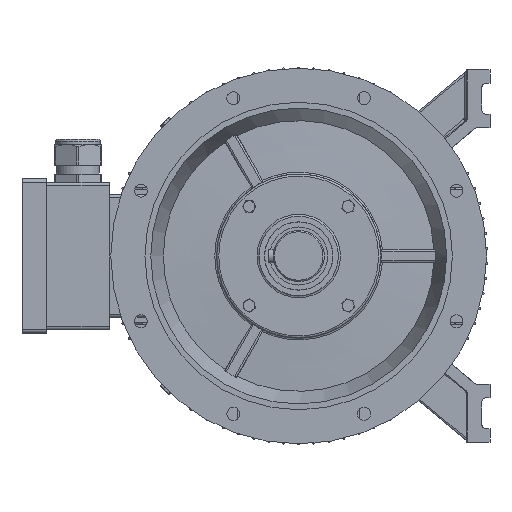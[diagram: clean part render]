
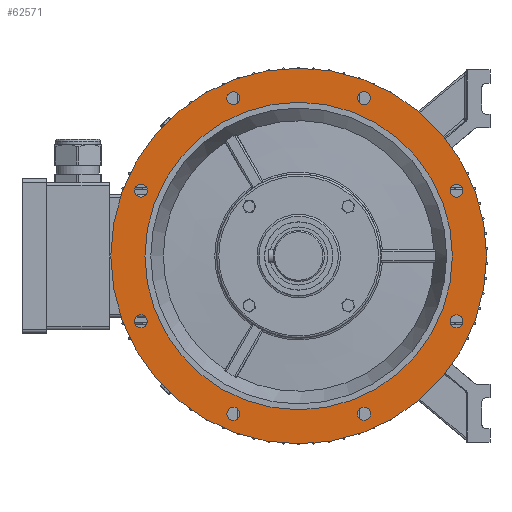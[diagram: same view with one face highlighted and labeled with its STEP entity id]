
A CAD part, left-side view. The second image highlights one B-rep face of the part: STEP entity #62571.
In plain terms, the highlighted planar face has unit normal (-1, 0, 0).
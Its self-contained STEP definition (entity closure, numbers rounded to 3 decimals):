
#16652=PLANE('',#66183);
#17581=FACE_BOUND('',#24127,.T.);
#17582=FACE_BOUND('',#24128,.T.);
#17583=FACE_BOUND('',#24129,.T.);
#17584=FACE_BOUND('',#24130,.T.);
#17585=FACE_BOUND('',#24131,.T.);
#17586=FACE_BOUND('',#24132,.T.);
#17587=FACE_BOUND('',#24133,.T.);
#17588=FACE_BOUND('',#24134,.T.);
#17589=FACE_BOUND('',#24135,.T.);
#20154=FACE_OUTER_BOUND('',#24126,.T.);
#24126=EDGE_LOOP('',(#51385));
#24127=EDGE_LOOP('',(#51386));
#24128=EDGE_LOOP('',(#51387));
#24129=EDGE_LOOP('',(#51388));
#24130=EDGE_LOOP('',(#51389));
#24131=EDGE_LOOP('',(#51390));
#24132=EDGE_LOOP('',(#51391));
#24133=EDGE_LOOP('',(#51392));
#24134=EDGE_LOOP('',(#51393));
#24135=EDGE_LOOP('',(#51394));
#25364=CIRCLE('',#66166,9.5);
#25365=CIRCLE('',#66168,9.5);
#25366=CIRCLE('',#66170,9.5);
#25367=CIRCLE('',#66172,9.5);
#25368=CIRCLE('',#66174,9.5);
#25369=CIRCLE('',#66176,9.5);
#25370=CIRCLE('',#66178,9.5);
#25371=CIRCLE('',#66180,9.5);
#25372=CIRCLE('',#66182,275.);
#25373=CIRCLE('',#66184,225.);
#29976=VERTEX_POINT('',#95961);
#29977=VERTEX_POINT('',#95964);
#29978=VERTEX_POINT('',#95967);
#29979=VERTEX_POINT('',#95970);
#29980=VERTEX_POINT('',#95973);
#29981=VERTEX_POINT('',#95976);
#29982=VERTEX_POINT('',#95979);
#29983=VERTEX_POINT('',#95982);
#29984=VERTEX_POINT('',#95985);
#29985=VERTEX_POINT('',#95988);
#37345=EDGE_CURVE('',#29976,#29976,#25364,.T.);
#37346=EDGE_CURVE('',#29977,#29977,#25365,.T.);
#37347=EDGE_CURVE('',#29978,#29978,#25366,.T.);
#37348=EDGE_CURVE('',#29979,#29979,#25367,.T.);
#37349=EDGE_CURVE('',#29980,#29980,#25368,.T.);
#37350=EDGE_CURVE('',#29981,#29981,#25369,.T.);
#37351=EDGE_CURVE('',#29982,#29982,#25370,.T.);
#37352=EDGE_CURVE('',#29983,#29983,#25371,.T.);
#37353=EDGE_CURVE('',#29984,#29984,#25372,.T.);
#37354=EDGE_CURVE('',#29985,#29985,#25373,.T.);
#51385=ORIENTED_EDGE('',*,*,#37353,.F.);
#51386=ORIENTED_EDGE('',*,*,#37345,.T.);
#51387=ORIENTED_EDGE('',*,*,#37346,.T.);
#51388=ORIENTED_EDGE('',*,*,#37347,.T.);
#51389=ORIENTED_EDGE('',*,*,#37348,.T.);
#51390=ORIENTED_EDGE('',*,*,#37349,.T.);
#51391=ORIENTED_EDGE('',*,*,#37350,.T.);
#51392=ORIENTED_EDGE('',*,*,#37351,.T.);
#51393=ORIENTED_EDGE('',*,*,#37352,.T.);
#51394=ORIENTED_EDGE('',*,*,#37354,.T.);
#62571=ADVANCED_FACE('',(#20154,#17581,#17582,#17583,#17584,#17585,#17586,
#17587,#17588,#17589),#16652,.T.);
#66166=AXIS2_PLACEMENT_3D('',#95962,#78653,#78654);
#66168=AXIS2_PLACEMENT_3D('',#95965,#78657,#78658);
#66170=AXIS2_PLACEMENT_3D('',#95968,#78661,#78662);
#66172=AXIS2_PLACEMENT_3D('',#95971,#78665,#78666);
#66174=AXIS2_PLACEMENT_3D('',#95974,#78669,#78670);
#66176=AXIS2_PLACEMENT_3D('',#95977,#78673,#78674);
#66178=AXIS2_PLACEMENT_3D('',#95980,#78677,#78678);
#66180=AXIS2_PLACEMENT_3D('',#95983,#78681,#78682);
#66182=AXIS2_PLACEMENT_3D('',#95986,#78685,#78686);
#66183=AXIS2_PLACEMENT_3D('',#95987,#78687,#78688);
#66184=AXIS2_PLACEMENT_3D('',#95989,#78689,#78690);
#78653=DIRECTION('center_axis',(1.,0.,0.));
#78654=DIRECTION('ref_axis',(0.,0.707,0.707));
#78657=DIRECTION('center_axis',(1.,0.,0.));
#78658=DIRECTION('ref_axis',(0.,1.,0.));
#78661=DIRECTION('center_axis',(1.,0.,0.));
#78662=DIRECTION('ref_axis',(0.,0.707,-0.707));
#78665=DIRECTION('center_axis',(1.,0.,0.));
#78666=DIRECTION('ref_axis',(0.,0.,
-1.));
#78669=DIRECTION('center_axis',(1.,0.,0.));
#78670=DIRECTION('ref_axis',(0.,-0.707,-0.707));
#78673=DIRECTION('center_axis',(1.,0.,0.));
#78674=DIRECTION('ref_axis',(0.,-1.,0.));
#78677=DIRECTION('center_axis',(1.,0.,0.));
#78678=DIRECTION('ref_axis',(0.,-0.707,0.707));
#78681=DIRECTION('center_axis',(1.,0.,0.));
#78682=DIRECTION('ref_axis',(0.,0.,1.));
#78685=DIRECTION('center_axis',(1.,0.,0.));
#78686=DIRECTION('ref_axis',(0.,1.,0.));
#78687=DIRECTION('center_axis',(-1.,0.,0.));
#78688=DIRECTION('ref_axis',(0.,0.,1.));
#78689=DIRECTION('center_axis',(1.,0.,0.));
#78690=DIRECTION('ref_axis',(0.,1.,0.));
#95961=CARTESIAN_POINT('',(140.,88.953,-237.687));
#95962=CARTESIAN_POINT('Origin',(140.,95.671,-230.97));
#95964=CARTESIAN_POINT('',(140.,-105.171,-230.97));
#95965=CARTESIAN_POINT('Origin',(140.,-95.671,-230.97));
#95967=CARTESIAN_POINT('',(140.,-237.687,-88.953));
#95968=CARTESIAN_POINT('Origin',(140.,-230.97,-95.671));
#95970=CARTESIAN_POINT('',(140.,-230.97,105.171));
#95971=CARTESIAN_POINT('Origin',(140.,-230.97,95.671));
#95973=CARTESIAN_POINT('',(140.,-88.953,237.687));
#95974=CARTESIAN_POINT('Origin',(140.,-95.671,230.97));
#95976=CARTESIAN_POINT('',(140.,105.171,230.97));
#95977=CARTESIAN_POINT('Origin',(140.,95.671,230.97));
#95979=CARTESIAN_POINT('',(140.,237.687,88.953));
#95980=CARTESIAN_POINT('Origin',(140.,230.97,95.671));
#95982=CARTESIAN_POINT('',(140.,230.97,-105.171));
#95983=CARTESIAN_POINT('Origin',(140.,230.97,-95.671));
#95985=CARTESIAN_POINT('',(140.,275.,0.));
#95986=CARTESIAN_POINT('Origin',(140.,0.,0.));
#95987=CARTESIAN_POINT('Origin',(140.,250.,0.));
#95988=CARTESIAN_POINT('',(140.,225.,0.));
#95989=CARTESIAN_POINT('Origin',(140.,0.,0.));
